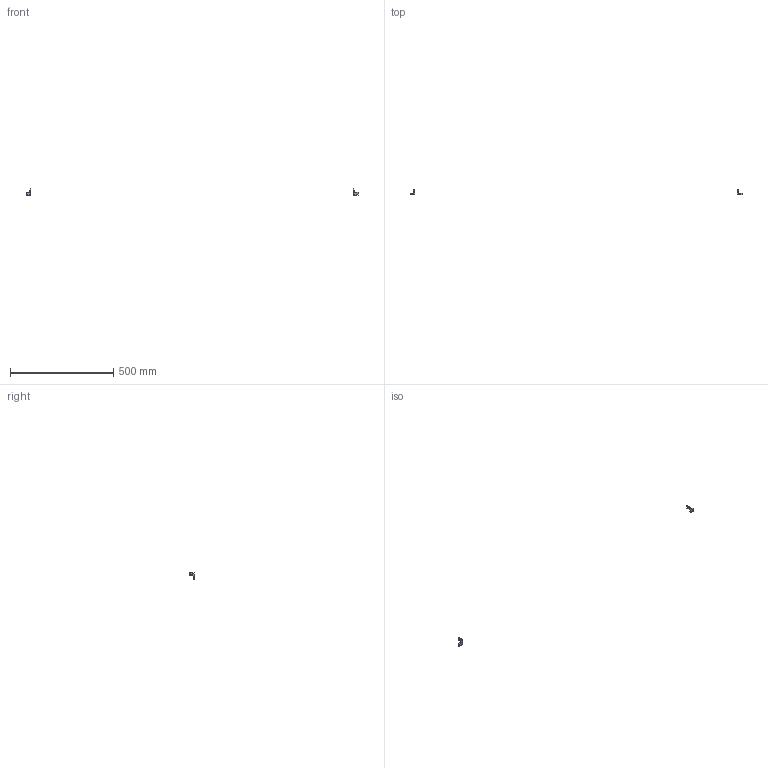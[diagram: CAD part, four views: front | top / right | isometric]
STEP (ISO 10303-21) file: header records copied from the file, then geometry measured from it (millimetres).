
FILE_DESCRIPTION(/* description */ (''),/* implementation_level */ '2;1');
FILE_NAME(/* name */ 'FRB8A0~1',/* time_stamp */ '2014-02-14T19:37:03+01:00',/* author */ (''),/* organization */ (''),/* preprocessor_version */ 'ST-DEVELOPER v14',/* originating_system */ '',/* authorisation */ '');
FILE_SCHEMA (('AUTOMOTIVE_DESIGN'));
Length unit declared in the file: millimetre
Products named in the file (1): Document
Bounding box: 1610.74 x 25.1 x 29.3 mm (x, y, z)
Volume: 5653.2 mm3; surface area: 4301.5 mm2
Topology: 4 solids, 4 shells, 64 faces, 168 edges, 112 vertices
Faces by surface type: plane 32, bspline 32
Entity records: 4069 total; most frequent: CARTESIAN_POINT 1818, B_SPLINE_CURVE_WITH_KNOTS 408, ORIENTED_EDGE 336, PCURVE 336, DEFINITIONAL_REPRESENTATION 336, SURFACE_CURVE 168, EDGE_CURVE 168, VERTEX_POINT 112
